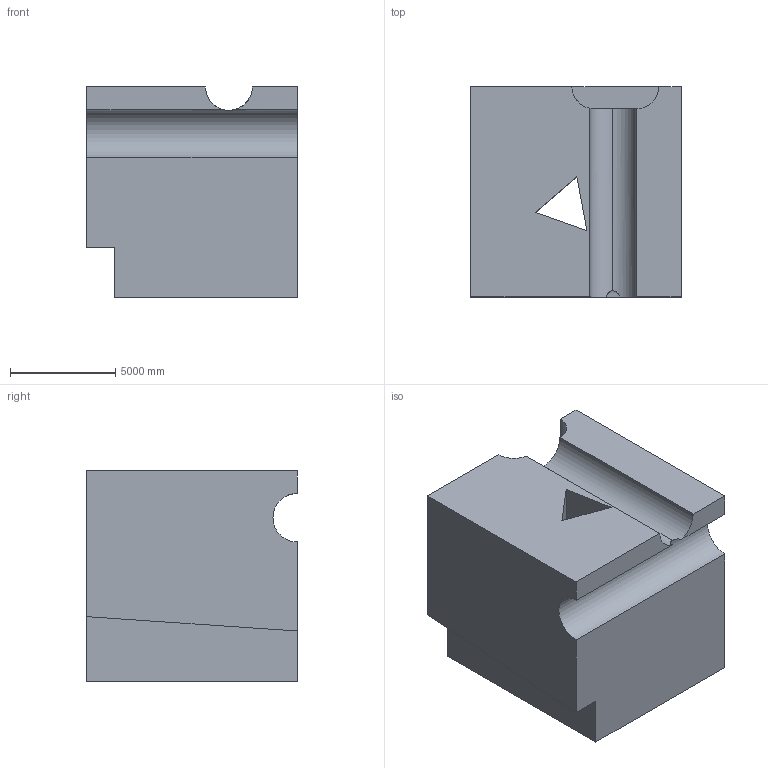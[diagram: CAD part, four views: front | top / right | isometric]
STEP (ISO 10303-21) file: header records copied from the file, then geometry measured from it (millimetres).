
FILE_DESCRIPTION (( 'STEP AP203' ), '1' );
FILE_NAME ('532.STEP', '2022-07-29T11:41:16', ( 'user' ), ( '' ), 'SwSTEP 2.0', 'SolidWorks 2021', '' );
FILE_SCHEMA (( 'CONFIG_CONTROL_DESIGN' ));
Length unit declared in the file: centimetre
Products named in the file (1): 532
Bounding box: 10000 x 10000 x 10000 mm (x, y, z)
Volume: 862461659274.1 mm3; surface area: 730889570.6 mm2
Topology: 1 solids, 1 shells, 27 faces, 69 edges, 46 vertices
Faces by surface type: plane 18, cylinder 9
Entity records: 1017 total; most frequent: CARTESIAN_POINT 264, DIRECTION 140, ORIENTED_EDGE 138, EDGE_CURVE 69, VECTOR 48, LINE 48, VERTEX_POINT 46, AXIS2_PLACEMENT_3D 46
